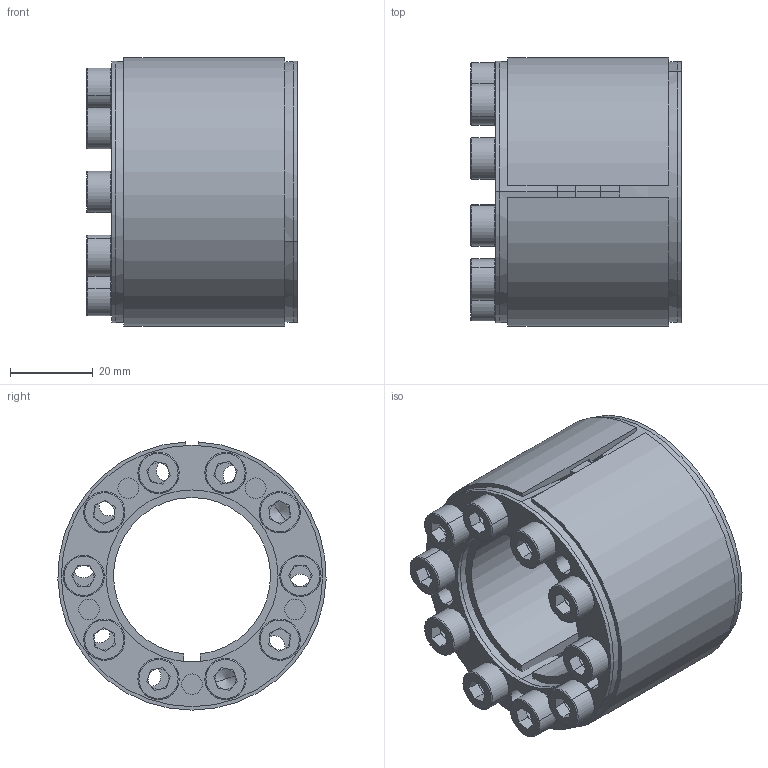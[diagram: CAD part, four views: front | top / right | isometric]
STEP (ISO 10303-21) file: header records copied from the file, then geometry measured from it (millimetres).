
FILE_DESCRIPTION (( 'STEP AP203' ), '1' );
FILE_NAME ('D4-38-65.STEP', '2017-10-14T07:46:47', ( 'MYCOM' ), ( '' ), 'SwSTEP 2.0', 'SolidWorks 2015', '' );
FILE_SCHEMA (( 'CONFIG_CONTROL_DESIGN' ));
Length unit declared in the file: millimetre
Products named in the file (1): D4-38-65
Bounding box: 51 x 64.98 x 64.97 mm (x, y, z)
Surface area: 43051.4 mm2 (no closed solid volume)
Topology: 0 solids, 19 shells, 287 faces, 789 edges, 512 vertices
Faces by surface type: plane 142, cylinder 93, torus 40, cone 12
Entity records: 9354 total; most frequent: DIRECTION 1755, CARTESIAN_POINT 1639, ORIENTED_EDGE 1394, EDGE_CURVE 785, AXIS2_PLACEMENT_3D 690, VERTEX_POINT 512, CIRCLE 402, VECTOR 375
